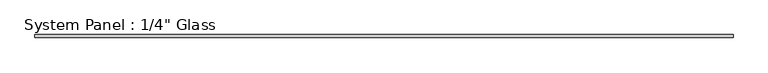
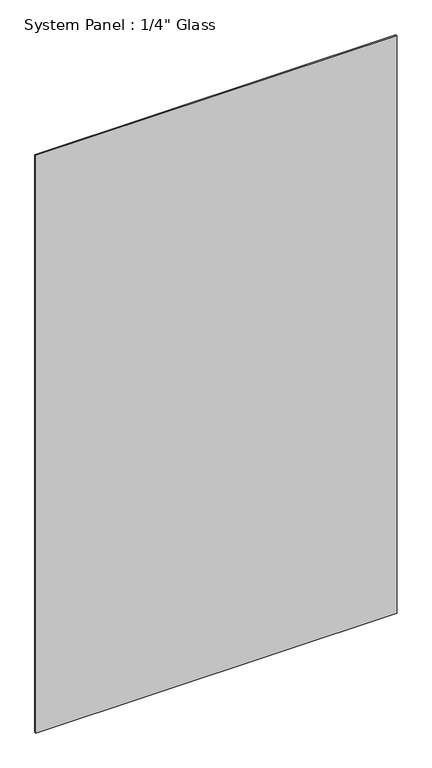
"""IFC4 building model written with IfcOpenShell, lengths in millimetres: plate geometry."""

from ifc_helpers import new_model, si_unit, origin, origin_with_axes, place, context, project, spatial, polyline, outline, extrude, source, transform, mapped, element, save


def plate_048e4634(model_context):
    return source(origin(), model_context, "Body", "SweptSolid", [
        extrude(outline(polyline([(736.5747319, -3.175), (-736.5747319, -3.175), (-736.5747319, 3.175), (736.5747319, 3.175), (736.5747319, -3.175)])), origin_with_axes(), (0.0, 0.0, 1.0), 2489.2),
    ])


if __name__ == "__main__":
    model = new_model("IFC4")
    model_context = context("Model", 3, world=origin())
    ifc_project = project(units=[si_unit("LENGTHUNIT", "METRE", prefix="MILLI")], contexts=[model_context])
    site = spatial("IfcSite", under=ifc_project)
    building = spatial("IfcBuilding", under=site)
    placement = place(None, origin())
    plate_shape = plate_048e4634(model_context)
    element("IfcPlate", 1, ObjectType="System Panel : 1/4\" Glass", at=placement, inside=building, context=model_context, shape_type="MappedRepresentation", body=[
        mapped(plate_shape, transform((0.0, 0.0, 0.0), x_axis=(1.0, 0.0, 0.0), y_axis=(0.0, 1.0, 0.0), z_axis=(0.0, 0.0, 1.0))),
    ])
    save(model, "model.ifc")
